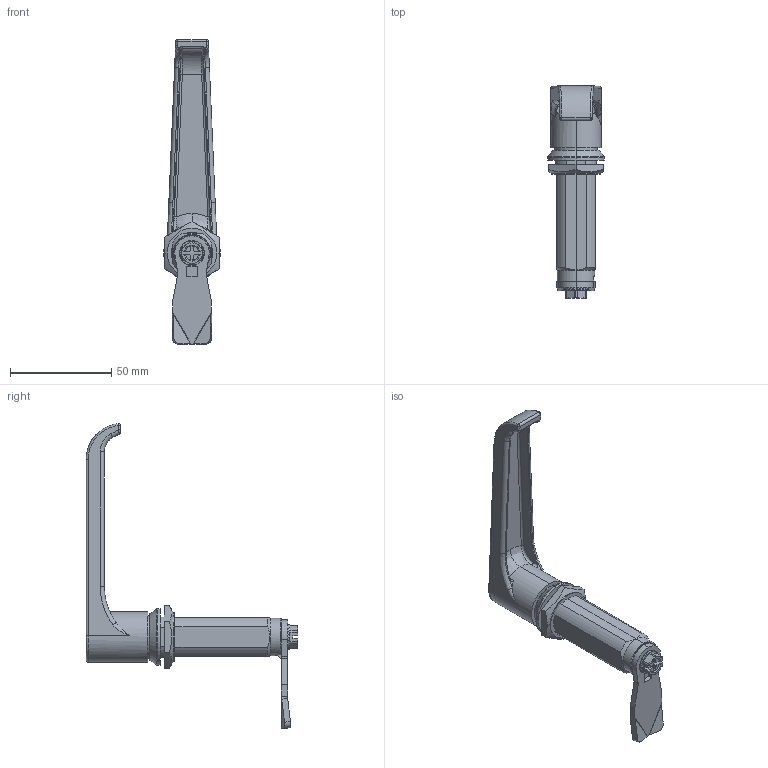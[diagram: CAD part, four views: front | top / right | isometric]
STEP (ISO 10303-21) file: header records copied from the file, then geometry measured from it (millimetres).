
FILE_DESCRIPTION (( 'STEP AP214' ), '1' );
FILE_NAME ('2.L60.005-006.STEP', '2016-09-08T10:46:27', ( '' ), ( '' ), 'SwSTEP 2.0', 'SolidWorks 2015', '' );
FILE_SCHEMA (( 'AUTOMOTIVE_DESIGN' ));
Length unit declared in the file: millimetre
Products named in the file (10): 2.NKR_M22 - A1; 2.K.PM60.001_B; DIN 3771_16,36x2.4; 2.L18.001.02_A; 2.L60.005-006; Podk³adka ³ukowa M22_A; 2.A001.008_A; 2.L18.010_A; DIN 6921_M6x8; 1C.J-1XX.GH.L_#3, 1.65.18.45
Assembly tree (9 placements, depth 2):
  2.L60.005-006
    2.L18.001.02_A
    DIN 3771_16,36x2.4
    2.K.PM60.001_B
    2.NKR_M22 - A1
    1C.J-1XX.GH.L_#3, 1.65.18.45
    DIN 6921_M6x8
    2.L18.010_A
    2.A001.008_A
    Podk³adka ³ukowa M22_A
Bounding box: 28 x 104.75 x 150.65 mm (x, y, z)
Volume: 43855.1 mm3; surface area: 29632.5 mm2
Topology: 9 solids, 9 shells, 433 faces, 1080 edges, 678 vertices
Faces by surface type: plane 202, cylinder 132, bspline 39, cone 38, torus 17, sphere 5
Entity records: 17531 total; most frequent: CARTESIAN_POINT 6292, ORIENTED_EDGE 2148, DIRECTION 1919, EDGE_CURVE 1074, AXIS2_PLACEMENT_3D 725, VERTEX_POINT 677, EDGE_LOOP 471, VECTOR 469
